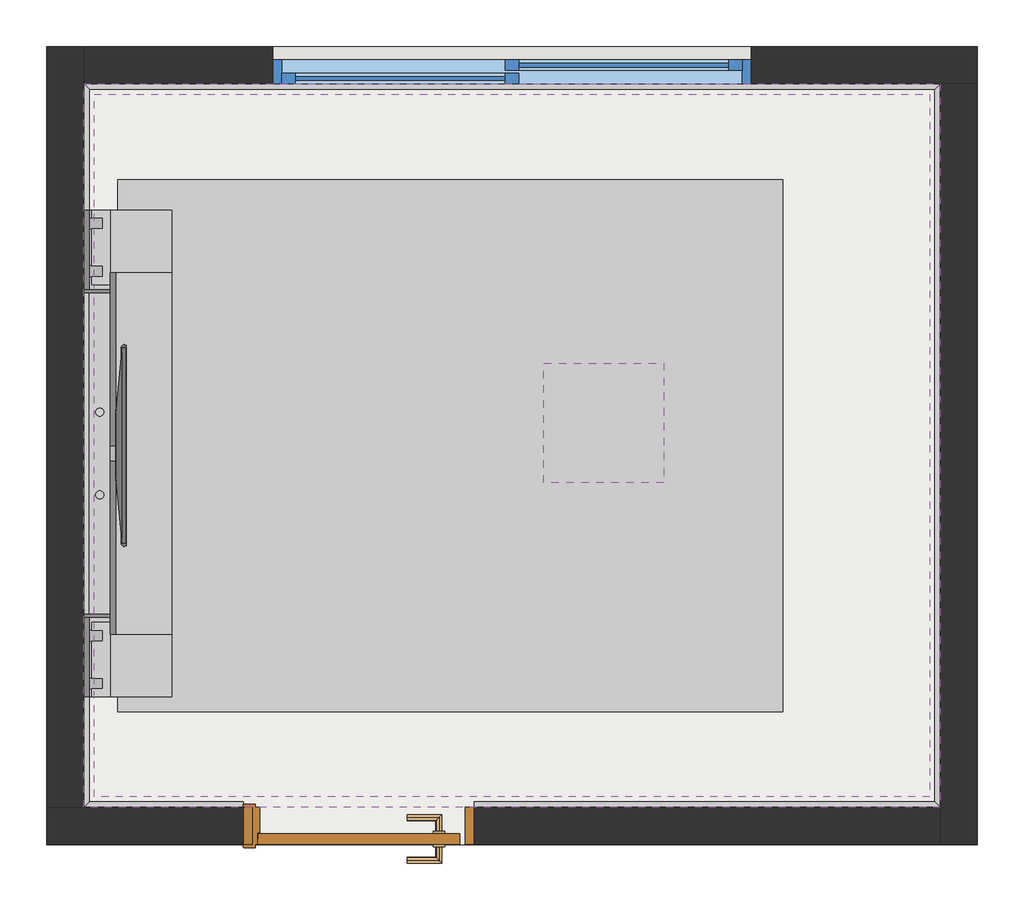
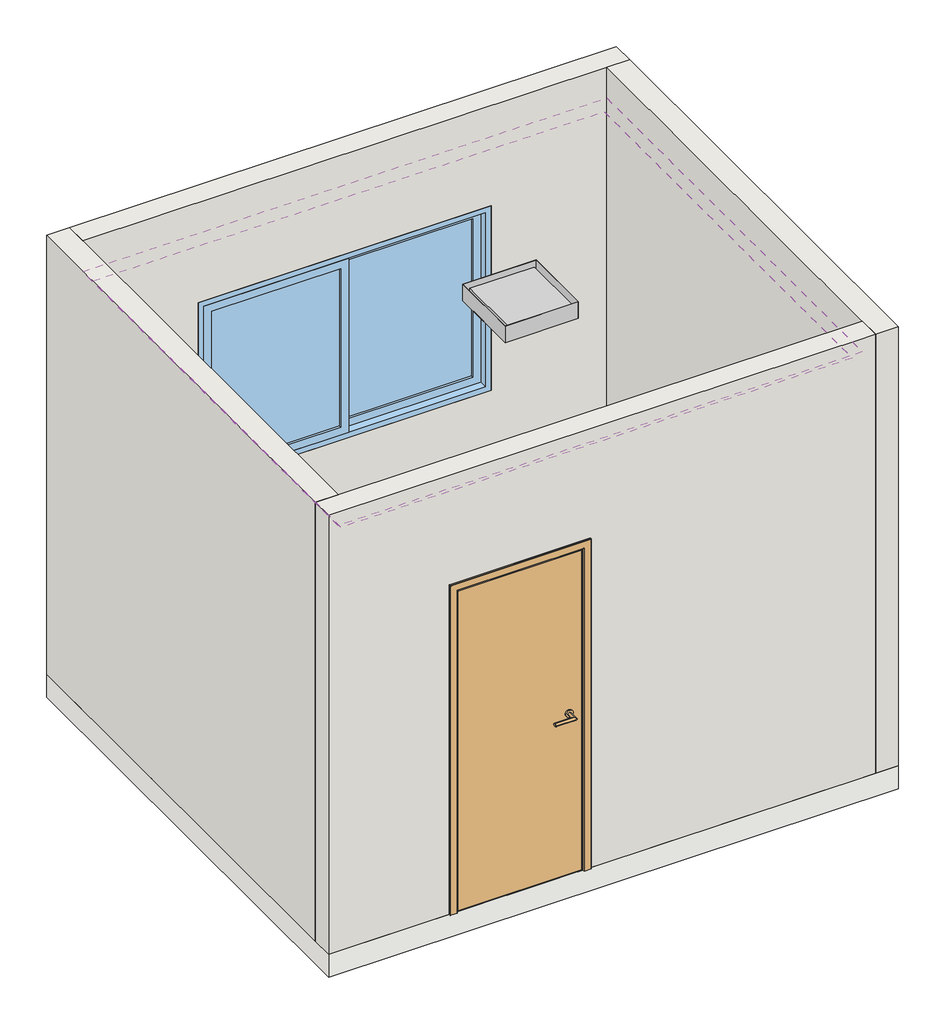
# One storey, incomplete: 4 walls, 2 coverings, 2 furniture elements, 2 proxies, 1 door, 1 light fixture, 1 slab, 1 window.
"""IFC4 building model written with IfcOpenShell, lengths in millimetres."""

from ifc_helpers import new_model, si_unit, frame, origin, place, context, project, spatial, polyline, circle_curve, ellipse_curve, outline, extrude, faceted_brep, transform, mapped, element, save
from ifc_brep_helpers import plane_surface, revolved_surface, advanced_brep
from components import proxy_15416f9b, door_5d8b922e, furniture_56615289, furniture_200_x_200_cm_f9d72c47, light_fixture_60047a8c, window_e5373962

model = new_model("IFC4")

# Units and contexts
model_context = context("Model", 3, world=origin())
ifc_project = project(units=[si_unit("LENGTHUNIT", "METRE", prefix="MILLI")], contexts=[model_context])

# Site, building, storey
site = spatial("IfcSite", under=ifc_project)
building = spatial("IfcBuilding", under=site)
storey = spatial("IfcBuildingStorey", under=building, Name="Nível 1", Elevation=0.0)

# Proxies
placement = place(None, origin())
element("IfcBuildingElementProxy", 1, Name="Rodape", ObjectType="Rodape", at=placement, inside=storey, context=model_context, shape_type="AdvancedBrep", body=[
    advanced_brep(
    [(-7970.3970545, 4194.0704833, 0.0), (-7990.3970545, 4214.0704833, 0.0), (-7990.3970545, 4214.0704833, 100.0), (-7970.3970545, 4194.0704833, 100.0), (-7970.3970545, 4194.0704833, 75.0), (-7970.3970545, 4194.0704833, 65.0), (-7970.3970545, 4194.0704833, 55.0), (-7970.3970545, 4194.0704833, 45.0), (-7970.3970545, 1514.0704833, 0.0), (-7970.3970545, 1514.0704833, 45.0), (-7970.3970545, 1514.0704833, 55.0), (-7970.3970545, 1514.0704833, 65.0), (-7970.3970545, 1514.0704833, 75.0), (-7970.3970545, 1514.0704833, 100.0), (-7990.3970545, 1494.0704833, 100.0), (-7990.3970545, 1494.0704833, 0.0)],
    [
        (0, 1),
        (1, 2),
        (2, 3),
        (3, 4),
        (4, 5, ellipse_curve(frame((-7970.3970545, 4194.0704833, 70.0), z_axis=(-0.7071067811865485, -0.7071067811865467, 0.0), x_axis=(0.7071067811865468, -0.7071067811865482, 0.0)), 7.0710678, 5.0)),
        (5, 6),
        (6, 7, ellipse_curve(frame((-7970.3970545, 4194.0704833, 50.0), z_axis=(-0.7071067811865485, -0.7071067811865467, 0.0), x_axis=(0.7071067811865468, -0.7071067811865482, 0.0)), 7.0710678, 5.0)),
        (7, 0),
        (8, 9),
        (9, 10, ellipse_curve(frame((-7970.3970545, 1514.0704833, 50.0), z_axis=(-0.7071067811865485, 0.7071067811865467, 0.0), x_axis=(-0.7071067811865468, -0.7071067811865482, 0.0)), 7.0710678, 5.0)),
        (10, 11),
        (11, 12, ellipse_curve(frame((-7970.3970545, 1514.0704833, 70.0), z_axis=(-0.7071067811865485, 0.7071067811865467, 0.0), x_axis=(-0.7071067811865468, -0.7071067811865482, 0.0)), 7.0710678, 5.0)),
        (12, 13),
        (13, 14),
        (14, 15),
        (15, 8),
        (0, 8),
        (15, 1),
        (14, 2),
        (13, 3),
        (12, 4),
        (11, 5),
        (10, 6),
        (9, 7),
    ],
    [
        plane_surface(frame((-7990.3970545, 4214.0704833, -304.8), z_axis=(0.7071067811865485, 0.7071067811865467, 0.0), x_axis=(0.7071067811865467, -0.7071067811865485, 0.0))),
        plane_surface(frame((-7990.3970545, 1494.0704833, -304.8), z_axis=(0.7071067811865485, -0.7071067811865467, 0.0), x_axis=(0.7071067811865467, 0.7071067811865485, 0.0))),
        plane_surface(frame((-7970.3970545, 4194.0704833, 0.0), z_axis=(0.0, 0.0, -1.0), x_axis=(0.0, -1.0, 0.0))),
        plane_surface(frame((-7990.3970545, 4214.0704833, 0.0), z_axis=(-1.0, 0.0, 0.0), x_axis=(0.0, -1.0, 0.0))),
        plane_surface(frame((-7990.3970545, 4214.0704833, 100.0), z_axis=(0.0, 0.0, 1.0), x_axis=(0.0, -1.0, 0.0))),
        plane_surface(frame((-7970.3970545, 4194.0704833, 100.0), z_axis=(1.0, 0.0, 0.0), x_axis=(0.0, -1.0, 0.0))),
        revolved_surface(polyline([(-7965.3970545, 1509.07048330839, 70.0), (-7965.3970545, 4199.07048329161, 70.0)]), (-7970.3970545, 4214.0704833, 70.0), (0.0, -1.0, 0.0)),
        plane_surface(frame((-7970.3970545, 4194.0704833, 65.0), z_axis=(1.0, 0.0, 0.0), x_axis=(0.0, -1.0, 0.0))),
        revolved_surface(polyline([(-7965.3970545, 1509.07048330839, 50.0), (-7965.3970545, 4199.07048329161, 50.0)]), (-7970.3970545, 4214.0704833, 50.0), (0.0, -1.0, 0.0)),
        plane_surface(frame((-7970.3970545, 4194.0704833, 45.0), z_axis=(1.0, 0.0, 0.0), x_axis=(0.0, -1.0, 0.0))),
    ],
    [
        (0, [[1, 2, 3, 4, 5, 6, 7, 8]]),
        (1, [[9, 10, 11, 12, 13, 14, 15, 16]]),
        (2, [[-1, 17, -16, 18]]),
        (3, [[-2, -18, -15, 19]]),
        (4, [[-3, -19, -14, 20]]),
        (5, [[-4, -20, -13, 21]]),
        (6, [[-5, -21, -12, 22]]),
        (7, [[-6, -22, -11, 23]]),
        (8, [[-7, -23, -10, 24]]),
        (9, [[-8, -24, -9, -17]]),
    ],
),
    advanced_brep(
    [(-4790.3970545, 4194.0704833, 0.0), (-4770.3970545, 4214.0704833, 0.0), (-4770.3970545, 4214.0704833, 100.0), (-4790.3970545, 4194.0704833, 100.0), (-4790.3970545, 4194.0704833, 75.0), (-4790.3970545, 4194.0704833, 65.0), (-4790.3970545, 4194.0704833, 55.0), (-4790.3970545, 4194.0704833, 45.0), (-7970.3970545, 4194.0704833, 0.0), (-7970.3970545, 4194.0704833, 45.0), (-7970.3970545, 4194.0704833, 55.0), (-7970.3970545, 4194.0704833, 65.0), (-7970.3970545, 4194.0704833, 75.0), (-7970.3970545, 4194.0704833, 100.0), (-7990.3970545, 4214.0704833, 100.0), (-7990.3970545, 4214.0704833, 0.0)],
    [
        (0, 1),
        (1, 2),
        (2, 3),
        (3, 4),
        (4, 5, ellipse_curve(frame((-4790.3970545, 4194.0704833, 70.0), z_axis=(-0.7071067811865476, 0.7071067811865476, 0.0), x_axis=(-0.7071067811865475, -0.7071067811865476, 0.0)), 7.0710678, 5.0)),
        (5, 6),
        (6, 7, ellipse_curve(frame((-4790.3970545, 4194.0704833, 50.0), z_axis=(-0.7071067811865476, 0.7071067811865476, 0.0), x_axis=(-0.7071067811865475, -0.7071067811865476, 0.0)), 7.0710678, 5.0)),
        (7, 0),
        (8, 9),
        (9, 10, ellipse_curve(frame((-7970.3970545, 4194.0704833, 50.0), z_axis=(0.7071067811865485, 0.7071067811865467, 0.0), x_axis=(-0.7071067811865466, 0.7071067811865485, 0.0)), 7.0710678, 5.0)),
        (10, 11),
        (11, 12, ellipse_curve(frame((-7970.3970545, 4194.0704833, 70.0), z_axis=(0.7071067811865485, 0.7071067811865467, 0.0), x_axis=(-0.7071067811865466, 0.7071067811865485, 0.0)), 7.0710678, 5.0)),
        (12, 13),
        (13, 14),
        (14, 15),
        (15, 8),
        (0, 8),
        (15, 1),
        (14, 2),
        (13, 3),
        (12, 4),
        (11, 5),
        (10, 6),
        (9, 7),
    ],
    [
        plane_surface(frame((-4770.3970545, 4214.0704833, -304.8), z_axis=(0.7071067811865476, -0.7071067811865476, 0.0), x_axis=(-0.7071067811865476, -0.7071067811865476, 0.0))),
        plane_surface(frame((-7990.3970545, 4214.0704833, -304.8), z_axis=(-0.7071067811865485, -0.7071067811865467, 0.0), x_axis=(0.7071067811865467, -0.7071067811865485, 0.0))),
        plane_surface(frame((-4790.3970545, 4194.0704833, 0.0), z_axis=(0.0, 0.0, -1.0), x_axis=(-1.0, 0.0, 0.0))),
        plane_surface(frame((-4770.3970545, 4214.0704833, 0.0), z_axis=(0.0, 1.0, 0.0), x_axis=(-1.0, 0.0, 0.0))),
        plane_surface(frame((-4770.3970545, 4214.0704833, 100.0), z_axis=(0.0, 0.0, 1.0), x_axis=(-1.0, 0.0, 0.0))),
        plane_surface(frame((-4790.3970545, 4194.0704833, 100.0), z_axis=(0.0, -1.0, 0.0), x_axis=(-1.0, 0.0, 0.0))),
        revolved_surface(polyline([(-7975.39705449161, 4189.0704833, 70.0), (-4785.39705450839, 4189.0704833, 70.0)]), (-4770.3970545, 4194.0704833, 70.0), (-1.0, 0.0, 0.0)),
        plane_surface(frame((-4790.3970545, 4194.0704833, 65.0), z_axis=(0.0, -1.0, 0.0), x_axis=(-1.0, 0.0, 0.0))),
        revolved_surface(polyline([(-7975.39705449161, 4189.0704833, 50.0), (-4785.39705450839, 4189.0704833, 50.0)]), (-4770.3970545, 4194.0704833, 50.0), (-1.0, 0.0, 0.0)),
        plane_surface(frame((-4790.3970545, 4194.0704833, 45.0), z_axis=(0.0, -1.0, 0.0), x_axis=(-1.0, 0.0, 0.0))),
    ],
    [
        (0, [[1, 2, 3, 4, 5, 6, 7, 8]]),
        (1, [[9, 10, 11, 12, 13, 14, 15, 16]]),
        (2, [[-1, 17, -16, 18]]),
        (3, [[-2, -18, -15, 19]]),
        (4, [[-3, -19, -14, 20]]),
        (5, [[-4, -20, -13, 21]]),
        (6, [[-5, -21, -12, 22]]),
        (7, [[-6, -22, -11, 23]]),
        (8, [[-7, -23, -10, 24]]),
        (9, [[-8, -24, -9, -17]]),
    ],
),
    advanced_brep(
    [(-7970.3970545, 1514.0704833, 0.0), (-7990.3970545, 1494.0704833, 0.0), (-7990.3970545, 1494.0704833, 100.0), (-7970.3970545, 1514.0704833, 100.0), (-7970.3970545, 1514.0704833, 75.0), (-7970.3970545, 1514.0704833, 65.0), (-7970.3970545, 1514.0704833, 55.0), (-7970.3970545, 1514.0704833, 45.0), (-7390.3970545, 1514.0704833, 0.0), (-7390.3970545, 1514.0704833, 45.0), (-7390.3970545, 1514.0704833, 55.0), (-7390.3970545, 1514.0704833, 65.0), (-7390.3970545, 1514.0704833, 75.0), (-7390.3970545, 1514.0704833, 100.0), (-7390.3970545, 1494.0704833, 100.0), (-7390.3970545, 1494.0704833, 0.0)],
    [
        (0, 1),
        (1, 2),
        (2, 3),
        (3, 4),
        (4, 5, ellipse_curve(frame((-7970.3970545, 1514.0704833, 70.0), z_axis=(0.7071067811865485, -0.7071067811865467, 0.0), x_axis=(0.7071067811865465, 0.7071067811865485, 0.0)), 7.0710678, 5.0)),
        (5, 6),
        (6, 7, ellipse_curve(frame((-7970.3970545, 1514.0704833, 50.0), z_axis=(0.7071067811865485, -0.7071067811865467, 0.0), x_axis=(0.7071067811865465, 0.7071067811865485, 0.0)), 7.0710678, 5.0)),
        (7, 0),
        (8, 9),
        (9, 10, circle_curve(frame((-7390.3970545, 1514.0704833, 50.0), z_axis=(-1.0, 0.0, 0.0), x_axis=(0.0, 1.0, 0.0)), 5.0)),
        (10, 11),
        (11, 12, circle_curve(frame((-7390.3970545, 1514.0704833, 70.0), z_axis=(-1.0, 0.0, 0.0), x_axis=(0.0, 1.0, 0.0)), 5.0)),
        (12, 13),
        (13, 14),
        (14, 15),
        (15, 8),
        (0, 8),
        (15, 1),
        (14, 2),
        (13, 3),
        (12, 4),
        (11, 5),
        (10, 6),
        (9, 7),
    ],
    [
        plane_surface(frame((-7990.3970545, 1494.0704833, -304.8), z_axis=(-0.7071067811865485, 0.7071067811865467, 0.0), x_axis=(0.7071067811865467, 0.7071067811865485, 0.0))),
        plane_surface(frame((-7390.3970545, 1494.0704833, -101.9803903), z_axis=(1.0, 0.0, 0.0), x_axis=(0.0, 1.0, 0.0))),
        plane_surface(frame((-7970.3970545, 1514.0704833, 0.0), z_axis=(0.0, 0.0, -1.0), x_axis=(1.0, 0.0, 0.0))),
        plane_surface(frame((-7990.3970545, 1494.0704833, 0.0), z_axis=(0.0, -1.0, 0.0), x_axis=(1.0, 0.0, 0.0))),
        plane_surface(frame((-7990.3970545, 1494.0704833, 100.0), z_axis=(0.0, 0.0, 1.0), x_axis=(1.0, 0.0, 0.0))),
        plane_surface(frame((-7970.3970545, 1514.0704833, 100.0), z_axis=(0.0, 1.0, 0.0), x_axis=(1.0, 0.0, 0.0))),
        revolved_surface(polyline([(-7390.3970545, 1519.0704833, 70.0), (-7975.39705449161, 1519.0704833, 70.0)]), (-7990.3970545, 1514.0704833, 70.0), (1.0, 0.0, 0.0)),
        plane_surface(frame((-7970.3970545, 1514.0704833, 65.0), z_axis=(0.0, 1.0, 0.0), x_axis=(1.0, 0.0, 0.0))),
        revolved_surface(polyline([(-7390.3970545, 1519.0704833, 50.0), (-7975.39705449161, 1519.0704833, 50.0)]), (-7990.3970545, 1514.0704833, 50.0), (1.0, 0.0, 0.0)),
        plane_surface(frame((-7970.3970545, 1514.0704833, 45.0), z_axis=(0.0, 1.0, 0.0), x_axis=(1.0, 0.0, 0.0))),
    ],
    [
        (0, [[1, 2, 3, 4, 5, 6, 7, 8]]),
        (1, [[9, 10, 11, 12, 13, 14, 15, 16]]),
        (2, [[-1, 17, -16, 18]]),
        (3, [[-2, -18, -15, 19]]),
        (4, [[-3, -19, -14, 20]]),
        (5, [[-4, -20, -13, 21]]),
        (6, [[-5, -21, -12, 22]]),
        (7, [[-6, -22, -11, 23]]),
        (8, [[-7, -23, -10, 24]]),
        (9, [[-8, -24, -9, -17]]),
    ],
),
    advanced_brep(
    [(-6522.3950626, 1514.0704833, 0.0), (-6522.3950626, 1494.0704833, 0.0), (-6522.3950626, 1494.0704833, 100.0), (-6522.3950626, 1514.0704833, 100.0), (-6522.3950626, 1514.0704833, 75.0), (-6522.3950626, 1514.0704833, 65.0), (-6522.3950626, 1514.0704833, 55.0), (-6522.3950626, 1514.0704833, 45.0), (-4790.3970545, 1514.0704833, 0.0), (-4790.3970545, 1514.0704833, 45.0), (-4790.3970545, 1514.0704833, 55.0), (-4790.3970545, 1514.0704833, 65.0), (-4790.3970545, 1514.0704833, 75.0), (-4790.3970545, 1514.0704833, 100.0), (-4770.3970545, 1494.0704833, 100.0), (-4770.3970545, 1494.0704833, 0.0)],
    [
        (0, 1),
        (1, 2),
        (2, 3),
        (3, 4),
        (4, 5, circle_curve(frame((-6522.3950626, 1514.0704833, 70.0), z_axis=(1.0, 0.0, 0.0), x_axis=(0.0, 1.0, 0.0)), 5.0)),
        (5, 6),
        (6, 7, circle_curve(frame((-6522.3950626, 1514.0704833, 50.0), z_axis=(1.0, 0.0, 0.0), x_axis=(0.0, 1.0, 0.0)), 5.0)),
        (7, 0),
        (8, 9),
        (9, 10, ellipse_curve(frame((-4790.3970545, 1514.0704833, 50.0), z_axis=(-0.7071067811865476, -0.7071067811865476, 0.0), x_axis=(0.7071067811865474, -0.7071067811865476, 0.0)), 7.0710678, 5.0)),
        (10, 11),
        (11, 12, ellipse_curve(frame((-4790.3970545, 1514.0704833, 70.0), z_axis=(-0.7071067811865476, -0.7071067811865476, 0.0), x_axis=(0.7071067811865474, -0.7071067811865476, 0.0)), 7.0710678, 5.0)),
        (12, 13),
        (13, 14),
        (14, 15),
        (15, 8),
        (0, 8),
        (15, 1),
        (14, 2),
        (13, 3),
        (12, 4),
        (11, 5),
        (10, 6),
        (9, 7),
    ],
    [
        plane_surface(frame((-6522.3950626, 1494.0704833, -101.9803903), z_axis=(-1.0, 0.0, 0.0), x_axis=(0.0, 1.0, 0.0))),
        plane_surface(frame((-4770.3970545, 1494.0704833, -304.8), z_axis=(0.7071067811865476, 0.7071067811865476, 0.0), x_axis=(-0.7071067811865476, 0.7071067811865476, 0.0))),
        plane_surface(frame((-6522.3950626, 1514.0704833, 0.0), z_axis=(0.0, 0.0, -1.0), x_axis=(1.0, 0.0, 0.0))),
        plane_surface(frame((-6522.3950626, 1494.0704833, 0.0), z_axis=(0.0, -1.0, 0.0), x_axis=(1.0, 0.0, 0.0))),
        plane_surface(frame((-6522.3950626, 1494.0704833, 100.0), z_axis=(0.0, 0.0, 1.0), x_axis=(1.0, 0.0, 0.0))),
        plane_surface(frame((-6522.3950626, 1514.0704833, 100.0), z_axis=(0.0, 1.0, 0.0), x_axis=(1.0, 0.0, 0.0))),
        revolved_surface(polyline([(-4785.39705450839, 1519.0704833, 70.0), (-6522.3950626, 1519.0704833, 70.0)]), (-6522.3950626, 1514.0704833, 70.0), (1.0, 0.0, 0.0)),
        plane_surface(frame((-6522.3950626, 1514.0704833, 65.0), z_axis=(0.0, 1.0, 0.0), x_axis=(1.0, 0.0, 0.0))),
        revolved_surface(polyline([(-4785.39705450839, 1519.0704833, 50.0), (-6522.3950626, 1519.0704833, 50.0)]), (-6522.3950626, 1514.0704833, 50.0), (1.0, 0.0, 0.0)),
        plane_surface(frame((-6522.3950626, 1514.0704833, 45.0), z_axis=(0.0, 1.0, 0.0), x_axis=(1.0, 0.0, 0.0))),
    ],
    [
        (0, [[1, 2, 3, 4, 5, 6, 7, 8]]),
        (1, [[9, 10, 11, 12, 13, 14, 15, 16]]),
        (2, [[-1, 17, -16, 18]]),
        (3, [[-2, -18, -15, 19]]),
        (4, [[-3, -19, -14, 20]]),
        (5, [[-4, -20, -13, 21]]),
        (6, [[-5, -21, -12, 22]]),
        (7, [[-6, -22, -11, 23]]),
        (8, [[-7, -23, -10, 24]]),
        (9, [[-8, -24, -9, -17]]),
    ],
),
    advanced_brep(
    [(-4790.3970545, 1514.0704833, 0.0), (-4770.3970545, 1494.0704833, 0.0), (-4770.3970545, 1494.0704833, 100.0), (-4790.3970545, 1514.0704833, 100.0), (-4790.3970545, 1514.0704833, 75.0), (-4790.3970545, 1514.0704833, 65.0), (-4790.3970545, 1514.0704833, 55.0), (-4790.3970545, 1514.0704833, 45.0), (-4790.3970545, 4194.0704833, 0.0), (-4790.3970545, 4194.0704833, 45.0), (-4790.3970545, 4194.0704833, 55.0), (-4790.3970545, 4194.0704833, 65.0), (-4790.3970545, 4194.0704833, 75.0), (-4790.3970545, 4194.0704833, 100.0), (-4770.3970545, 4214.0704833, 100.0), (-4770.3970545, 4214.0704833, 0.0)],
    [
        (0, 1),
        (1, 2),
        (2, 3),
        (3, 4),
        (4, 5, ellipse_curve(frame((-4790.3970545, 1514.0704833, 70.0), z_axis=(0.7071067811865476, 0.7071067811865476, 0.0), x_axis=(-0.7071067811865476, 0.7071067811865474, 0.0)), 7.0710678, 5.0)),
        (5, 6),
        (6, 7, ellipse_curve(frame((-4790.3970545, 1514.0704833, 50.0), z_axis=(0.7071067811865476, 0.7071067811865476, 0.0), x_axis=(-0.7071067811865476, 0.7071067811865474, 0.0)), 7.0710678, 5.0)),
        (7, 0),
        (8, 9),
        (9, 10, ellipse_curve(frame((-4790.3970545, 4194.0704833, 50.0), z_axis=(0.7071067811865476, -0.7071067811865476, 0.0), x_axis=(0.7071067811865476, 0.7071067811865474, 0.0)), 7.0710678, 5.0)),
        (10, 11),
        (11, 12, ellipse_curve(frame((-4790.3970545, 4194.0704833, 70.0), z_axis=(0.7071067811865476, -0.7071067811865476, 0.0), x_axis=(0.7071067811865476, 0.7071067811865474, 0.0)), 7.0710678, 5.0)),
        (12, 13),
        (13, 14),
        (14, 15),
        (15, 8),
        (0, 8),
        (15, 1),
        (14, 2),
        (13, 3),
        (12, 4),
        (11, 5),
        (10, 6),
        (9, 7),
    ],
    [
        plane_surface(frame((-4770.3970545, 1494.0704833, -304.8), z_axis=(-0.7071067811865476, -0.7071067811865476, 0.0), x_axis=(-0.7071067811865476, 0.7071067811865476, 0.0))),
        plane_surface(frame((-4770.3970545, 4214.0704833, -304.8), z_axis=(-0.7071067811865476, 0.7071067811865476, 0.0), x_axis=(-0.7071067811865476, -0.7071067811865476, 0.0))),
        plane_surface(frame((-4790.3970545, 1514.0704833, 0.0), z_axis=(0.0, 0.0, -1.0), x_axis=(0.0, 1.0, 0.0))),
        plane_surface(frame((-4770.3970545, 1494.0704833, 0.0), z_axis=(1.0, 0.0, 0.0), x_axis=(0.0, 1.0, 0.0))),
        plane_surface(frame((-4770.3970545, 1494.0704833, 100.0), z_axis=(0.0, 0.0, 1.0), x_axis=(0.0, 1.0, 0.0))),
        plane_surface(frame((-4790.3970545, 1514.0704833, 100.0), z_axis=(-1.0, 0.0, 0.0), x_axis=(0.0, 1.0, 0.0))),
        revolved_surface(polyline([(-4795.3970545, 4199.07048329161, 70.0), (-4795.3970545, 1509.07048330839, 70.0)]), (-4790.3970545, 1494.0704833, 70.0), (0.0, 1.0, 0.0)),
        plane_surface(frame((-4790.3970545, 1514.0704833, 65.0), z_axis=(-1.0, 0.0, 0.0), x_axis=(0.0, 1.0, 0.0))),
        revolved_surface(polyline([(-4795.3970545, 4199.07048329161, 50.0), (-4795.3970545, 1509.07048330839, 50.0)]), (-4790.3970545, 1494.0704833, 50.0), (0.0, 1.0, 0.0)),
        plane_surface(frame((-4790.3970545, 1514.0704833, 45.0), z_axis=(-1.0, 0.0, 0.0), x_axis=(0.0, 1.0, 0.0))),
    ],
    [
        (0, [[1, 2, 3, 4, 5, 6, 7, 8]]),
        (1, [[9, 10, 11, 12, 13, 14, 15, 16]]),
        (2, [[-1, 17, -16, 18]]),
        (3, [[-2, -18, -15, 19]]),
        (4, [[-3, -19, -14, 20]]),
        (5, [[-4, -20, -13, 21]]),
        (6, [[-5, -21, -12, 22]]),
        (7, [[-6, -22, -11, 23]]),
        (8, [[-7, -23, -10, 24]]),
        (9, [[-8, -24, -9, -17]]),
    ],
),
])
proxy_shape = proxy_15416f9b(model_context)
element("IfcBuildingElementProxy", 2, Name="Samsung_6_series_smartTV__Television__TV_13081 : 32\" ES6305U", ObjectType="Samsung_6_series_smartTV__Television__TV_13081 : 32\" ES6305U", at=placement, inside=storey, context=model_context, shape_type="MappedRepresentation", body=[
    mapped(proxy_shape, transform((-8060.3970545, 2979.0704833, 0.0), x_axis=(0.0, -1.0, 0.0), y_axis=(1.0, 0.0, 0.0), z_axis=(0.0, 0.0, 1.0))),
])

# Coverings
element("IfcCovering", 3, ObjectType="Simples", at=placement, inside=storey, context=model_context, shape_type="AdvancedBrep", body=[
    advanced_brep(
    [(-4810.3970545, 4174.0704833, 2650.0), (-7950.3970545, 4174.0704833, 2650.0), (-7950.3970545, 1534.0704833, 2650.0), (-4810.3970545, 1534.0704833, 2650.0), (-7950.3970545, 4174.0704833, 2600.0), (-4810.3970545, 4174.0704833, 2600.0), (-4810.3970545, 1534.0704833, 2600.0), (-7950.3970545, 1534.0704833, 2600.0), (-7448.5470545, 3569.0704833, 2600.0), (-7480.2470545, 3569.0704833, 2600.0), (-7448.5470545, 2854.0704833, 2600.0), (-7480.2470545, 2854.0704833, 2600.0), (-7448.5470545, 2139.0704833, 2600.0), (-7480.2470545, 2139.0704833, 2600.0), (-7480.2470545, 3569.0704833, 2631.9926449), (-7448.5470545, 3569.0704833, 2631.9926449), (-7480.2470545, 2854.0704833, 2631.9926449), (-7448.5470545, 2854.0704833, 2631.9926449), (-7480.2470545, 2139.0704833, 2631.9926449), (-7448.5470545, 2139.0704833, 2631.9926449)],
    [
        (0, 1),
        (1, 2),
        (2, 3),
        (3, 0),
        (4, 5),
        (5, 6),
        (6, 7),
        (7, 4),
        (8, 9, circle_curve(frame((-7464.3970545, 3569.0704833, 2600.0), z_axis=(0.0, 0.0, 1.0), x_axis=(1.0, 0.0, 0.0)), 15.85)),
        (9, 8, circle_curve(frame((-7464.3970545, 3569.0704833, 2600.0), z_axis=(0.0, 0.0, 1.0), x_axis=(1.0, 0.0, 0.0)), 15.85)),
        (10, 11, circle_curve(frame((-7464.3970545, 2854.0704833, 2600.0), z_axis=(0.0, 0.0, 1.0), x_axis=(1.0, 0.0, 0.0)), 15.85)),
        (11, 10, circle_curve(frame((-7464.3970545, 2854.0704833, 2600.0), z_axis=(0.0, 0.0, 1.0), x_axis=(1.0, 0.0, 0.0)), 15.85)),
        (12, 13, circle_curve(frame((-7464.3970545, 2139.0704833, 2600.0), z_axis=(0.0, 0.0, 1.0), x_axis=(1.0, 0.0, 0.0)), 15.85)),
        (13, 12, circle_curve(frame((-7464.3970545, 2139.0704833, 2600.0), z_axis=(0.0, 0.0, 1.0), x_axis=(1.0, 0.0, 0.0)), 15.85)),
        (0, 5),
        (4, 1),
        (7, 2),
        (6, 3),
        (14, 15, circle_curve(frame((-7464.3970545, 3569.0704833, 2631.9926449), z_axis=(0.0, 0.0, -1.0), x_axis=(1.0, 0.0, 0.0)), 15.85)),
        (15, 14, circle_curve(frame((-7464.3970545, 3569.0704833, 2631.9926449), z_axis=(0.0, 0.0, -1.0), x_axis=(1.0, 0.0, 0.0)), 15.85)),
        (14, 9),
        (8, 15),
        (16, 17, circle_curve(frame((-7464.3970545, 2854.0704833, 2631.9926449), z_axis=(0.0, 0.0, -1.0), x_axis=(1.0, 0.0, 0.0)), 15.85)),
        (17, 16, circle_curve(frame((-7464.3970545, 2854.0704833, 2631.9926449), z_axis=(0.0, 0.0, -1.0), x_axis=(1.0, 0.0, 0.0)), 15.85)),
        (16, 11),
        (10, 17),
        (18, 19, circle_curve(frame((-7464.3970545, 2139.0704833, 2631.9926449), z_axis=(0.0, 0.0, -1.0), x_axis=(1.0, 0.0, 0.0)), 15.85)),
        (19, 18, circle_curve(frame((-7464.3970545, 2139.0704833, 2631.9926449), z_axis=(0.0, 0.0, -1.0), x_axis=(1.0, 0.0, 0.0)), 15.85)),
        (18, 13),
        (12, 19),
    ],
    [
        plane_surface(frame((-4700.3970545, 4174.0704833, 2650.0), z_axis=(0.0, 0.0, 1.0), x_axis=(-1.0, 0.0, 0.0))),
        plane_surface(frame((-4700.3970545, 4174.0704833, 2600.0), z_axis=(0.0, 0.0, -1.0), x_axis=(1.0, 0.0, 0.0))),
        plane_surface(frame((-4810.3970545, 4174.0704833, 2650.0), z_axis=(0.0, 1.0, 0.0), x_axis=(0.0, 0.0, -1.0))),
        plane_surface(frame((-7950.3970545, 4174.0704833, 2650.0), z_axis=(-1.0, 0.0, 0.0), x_axis=(0.0, 0.0, -1.0))),
        plane_surface(frame((-7950.3970545, 1534.0704833, 2650.0), z_axis=(0.0, -1.0, 0.0), x_axis=(0.0, 0.0, -1.0))),
        plane_surface(frame((-4810.3970545, 1534.0704833, 2650.0), z_axis=(1.0, 0.0, 0.0), x_axis=(0.0, 0.0, -1.0))),
        plane_surface(frame((-7448.5470545, 3569.0704833, 2631.9926449), z_axis=(0.0, 0.0, -1.0), x_axis=(0.0, 1.0, 0.0))),
        revolved_surface(polyline([(-7448.5470545, 3569.0704833, 2600.0), (-7448.5470545, 3569.0704833, 2631.9926449)]), (-7464.3970545, 3569.0704833, 2631.9926449), (0.0, 0.0, -1.0)),
        plane_surface(frame((-7448.5470545, 2854.0704833, 2631.9926449), z_axis=(0.0, 0.0, -1.0), x_axis=(0.0, 1.0, 0.0))),
        revolved_surface(polyline([(-7448.5470545, 2854.0704833, 2600.0), (-7448.5470545, 2854.0704833, 2631.9926449)]), (-7464.3970545, 2854.0704833, 2631.9926449), (0.0, 0.0, -1.0)),
        plane_surface(frame((-7448.5470545, 2139.0704833, 2631.9926449), z_axis=(0.0, 0.0, -1.0), x_axis=(0.0, 1.0, 0.0))),
        revolved_surface(polyline([(-7448.5470545, 2139.0704833, 2600.0), (-7448.5470545, 2139.0704833, 2631.9926449)]), (-7464.3970545, 2139.0704833, 2631.9926449), (0.0, 0.0, -1.0)),
    ],
    [
        (0, [[1, 2, 3, 4]]),
        (1, [[5, 6, 7, 8], [9, 10], [11, 12], [13, 14]]),
        (2, [[-1, 15, -5, 16]]),
        (3, [[-2, -16, -8, 17]]),
        (4, [[-3, -17, -7, 18]]),
        (5, [[-4, -18, -6, -15]]),
        (6, [[19, 20]]),
        (7, [[-19, 21, -9, 22]]),
        (7, [[-20, -22, -10, -21]]),
        (8, [[23, 24]]),
        (9, [[-23, 25, -11, 26]]),
        (9, [[-24, -26, -12, -25]]),
        (10, [[27, 28]]),
        (11, [[-27, 29, -13, 30]]),
        (11, [[-28, -30, -14, -29]]),
    ],
),
])
element("IfcCovering", 4, ObjectType="Simples", at=placement, inside=storey, context=model_context, shape_type="SweptSolid", body=[
    extrude(outline(polyline([(-4770.3970545, 4214.0704833), (-4770.3970545, 1494.0704833), (-7990.3970545, 1494.0704833), (-7990.3970545, 4214.0704833), (-4770.3970545, 4214.0704833)]), holes=[polyline([(-7900.3970545, 1584.0704833), (-4860.3970545, 1584.0704833), (-4860.3970545, 4124.0704833), (-7900.3970545, 4124.0704833), (-7900.3970545, 1584.0704833)])]), frame((0.0, 0.0, 2650.0), z_axis=(0.0, 0.0, 1.0), x_axis=(1.0, 0.0, 0.0)), (0.0, 0.0, 1.0), 50.0),
])

# Door
door_shape = door_5d8b922e(model_context)
element("IfcDoor", 5, ObjectType="Doors_Swing_Strugal_Aluminium-Doors_Strugal-a3002iv_INT : Doors_Swing_Strugal_Aluminium-Doors_Strugal-a3002iv_INT", at=placement, inside=storey, context=model_context, shape_type="MappedRepresentation", body=[
    mapped(door_shape, transform((-6956.3960585, 1424.0704833, 0.0), x_axis=(-1.0, 0.0, 0.0), y_axis=(0.0, -1.0, 0.0), z_axis=(0.0, 0.0, 1.0))),
])

# Furniture
furniture_shape = furniture_56615289(model_context)
element("IfcFurniture", 6, ObjectType="Painel de TV : Painel de TV", at=placement, inside=storey, context=model_context, shape_type="MappedRepresentation", body=[
    mapped(furniture_shape, transform((-7660.3970545, 1909.0704833, 600.0), x_axis=(0.0, 1.0, 0.0), y_axis=(-1.0, 0.0, 0.0), z_axis=(0.0, 0.0, 1.0))),
])
furniture_200_x_200_cm_shape = furniture_200_x_200_cm_f9d72c47(model_context)
element("IfcFurniture", 7, ObjectType="Rectangular_Rug__Tapete_retangular_12767 : 200 x 200 cm", at=placement, inside=storey, context=model_context, shape_type="MappedRepresentation", body=[
    mapped(furniture_200_x_200_cm_shape, transform((-6612.3970545, 2854.0704833, 0.0), x_axis=(1.0, 0.0, 0.0), y_axis=(0.0, 1.0, 0.0), z_axis=(0.0, 0.0, 1.0))),
])

# Light fixture
light_fixture_shape = light_fixture_60047a8c(model_context)
element("IfcLightFixture", 8, ObjectType="Lighting_Ceiling-Mounted_LumenWerx_Primo-Surface : Lighting_Ceiling-Mounted_LumenWerx_Primo-Surface", at=placement, inside=storey, context=model_context, shape_type="MappedRepresentation", body=[
    mapped(light_fixture_shape, transform((-6035.3970545, 2938.8322229, 2600.0), x_axis=(1.0, 0.0, 0.0), y_axis=(0.0, -1.0, 0.0), z_axis=(0.0, 0.0, -1.0))),
])

# Slab
element("IfcSlab", 9, ObjectType="Genérico 150 mm", at=placement, inside=storey, context=model_context, shape_type="SweptSolid", body=[
    extrude(outline(polyline([(-4630.3970545, 4354.0704833), (-4630.3970545, 1354.0704833), (-8130.3970545, 1354.0704833), (-8130.3970545, 4354.0704833), (-4630.3970545, 4354.0704833)])), frame((0.0, 0.0, -150.0), z_axis=(0.0, 0.0, 1.0), x_axis=(1.0, 0.0, 0.0)), (0.0, 0.0, 1.0), 150.0),
])

# Walls
element("IfcWall", 10, ObjectType="Genérico - 140 mm Alvenaria", at=placement, inside=storey, context=model_context, shape_type="Brep", body=[
    faceted_brep([(-8130.3970545, 1354.0704833, 2850.0), (-8130.3970545, 1354.0704833, 0.0), (-7390.3970545, 1354.0704833, 0.0), (-7390.3970545, 1354.0704833, 2140.5009959), (-6522.3950626, 1354.0704833, 2140.5009959), (-6522.3950626, 1354.0704833, 0.0), (-4770.3970545, 1354.0704833, 0.0), (-4770.3970545, 1354.0704833, 2850.0), (-8130.3970545, 1494.0704833, 0.0), (-8130.3970545, 1494.0704833, 2850.0), (-7990.3970545, 1494.0704833, 2850.0), (-4770.3970545, 1494.0704833, 2850.0), (-4770.3970545, 1494.0704833, 0.0), (-6522.3950626, 1494.0704833, 0.0), (-6522.3950626, 1494.0704833, 2140.5009959), (-7390.3970545, 1494.0704833, 2140.5009959), (-7390.3970545, 1494.0704833, 0.0), (-7990.3970545, 1494.0704833, 0.0)], [[[0, 1, 2, 3, 4, 5, 6, 7]], [[8, 9, 10, 11, 12, 13, 14, 15, 16, 17]], [[1, 8, 17, 16, 2]], [[12, 6, 5, 13]], [[1, 0, 9, 8]], [[7, 6, 12, 11]], [[0, 7, 11, 10, 9]], [[15, 3, 2, 16]], [[3, 15, 14, 4]], [[4, 14, 13, 5]]]),
])
element("IfcWall", 11, ObjectType="Genérico - 140 mm Alvenaria", at=placement, inside=storey, context=model_context, shape_type="Brep", body=[
    faceted_brep([(-8130.3970545, 4354.0704833, 0.0), (-8130.3970545, 1494.0704833, 0.0), (-8130.3970545, 1494.0704833, 2850.0), (-8130.3970545, 4354.0704833, 2850.0), (-7990.3970545, 4354.0704833, 0.0), (-7990.3970545, 4354.0704833, 2850.0), (-7990.3970545, 4214.0704833, 2850.0), (-7990.3970545, 1494.0704833, 2850.0), (-7990.3970545, 1494.0704833, 0.0), (-7990.3970545, 4214.0704833, 0.0)], [[[0, 1, 2, 3]], [[4, 5, 6, 7, 8, 9]], [[1, 0, 4, 9, 8]], [[0, 3, 5, 4]], [[2, 1, 8, 7]], [[3, 2, 7, 6, 5]]]),
])
element("IfcWall", 12, ObjectType="Genérico - 140 mm Alvenaria", at=placement, inside=storey, context=model_context, shape_type="Brep", body=[
    faceted_brep([(-4630.3970545, 4354.0704833, 0.0), (-7990.3970545, 4354.0704833, 0.0), (-7990.3970545, 4354.0704833, 2850.0), (-4630.3970545, 4354.0704833, 2850.0), (-7280.3970545, 4354.0704833, 1000.0), (-5480.3970545, 4354.0704833, 1000.0), (-5480.3970545, 4354.0704833, 2200.0), (-7280.3970545, 4354.0704833, 2200.0), (-4630.3970545, 4214.0704833, 0.0), (-4630.3970545, 4214.0704833, 2850.0), (-4770.3970545, 4214.0704833, 2850.0), (-7990.3970545, 4214.0704833, 2850.0), (-7990.3970545, 4214.0704833, 0.0), (-4770.3970545, 4214.0704833, 0.0), (-7280.3970545, 4214.0704833, 1000.0), (-7280.3970545, 4214.0704833, 2200.0), (-5480.3970545, 4214.0704833, 2200.0), (-5480.3970545, 4214.0704833, 1000.0)], [[[0, 1, 2, 3], [4, 5, 6, 7]], [[8, 9, 10, 11, 12, 13], [14, 15, 16, 17]], [[1, 0, 8, 13, 12]], [[0, 3, 9, 8]], [[2, 1, 12, 11]], [[3, 2, 11, 10, 9]], [[15, 14, 4, 7]], [[16, 15, 7, 6]], [[17, 16, 6, 5]], [[14, 17, 5, 4]]]),
])
element("IfcWall", 13, ObjectType="Genérico - 140 mm Alvenaria", at=placement, inside=storey, context=model_context, shape_type="Brep", body=[
    faceted_brep([(-4630.3970545, 1354.0704833, 0.0), (-4630.3970545, 4214.0704833, 0.0), (-4630.3970545, 4214.0704833, 2850.0), (-4630.3970545, 1354.0704833, 2850.0), (-4770.3970545, 1354.0704833, 0.0), (-4770.3970545, 1354.0704833, 2850.0), (-4770.3970545, 1494.0704833, 2850.0), (-4770.3970545, 4214.0704833, 2850.0), (-4770.3970545, 4214.0704833, 0.0), (-4770.3970545, 1494.0704833, 0.0)], [[[0, 1, 2, 3]], [[4, 5, 6, 7, 8, 9]], [[1, 0, 4, 9, 8]], [[0, 3, 5, 4]], [[2, 1, 8, 7]], [[3, 2, 7, 6, 5]]]),
])

# Window
window_shape = window_e5373962(model_context)
element("IfcWindow", 14, ObjectType="Janela de correr - 2 Painéis : Janela de correr - 2 Painéis", at=placement, inside=storey, context=model_context, shape_type="MappedRepresentation", body=[
    mapped(window_shape, transform((-6380.3970545, 4284.0704833, 0.0), x_axis=(1.0, 0.0, 0.0), y_axis=(0.0, 1.0, 0.0), z_axis=(0.0, 0.0, 1.0))),
])

save(model, "model.ifc")
